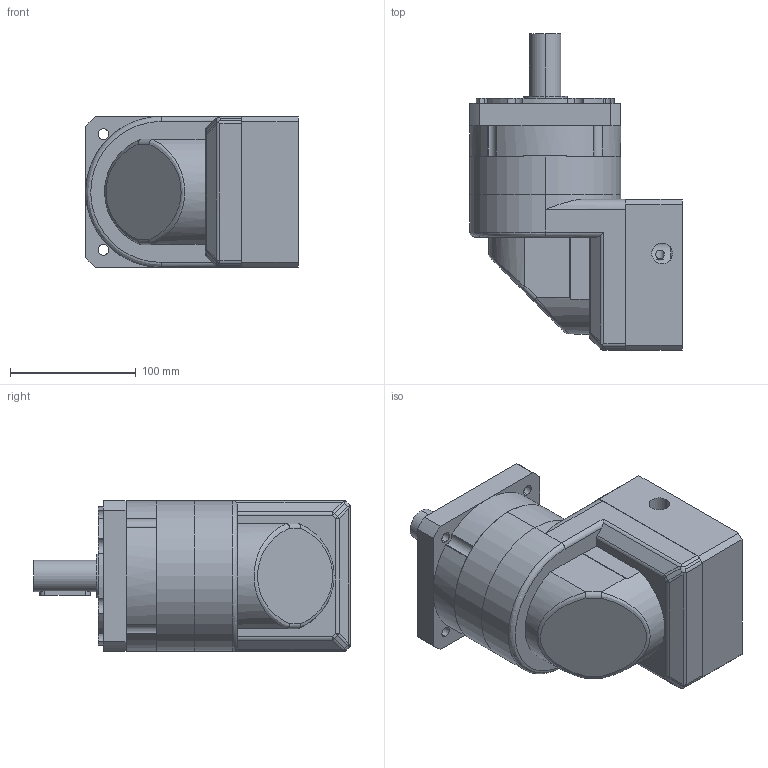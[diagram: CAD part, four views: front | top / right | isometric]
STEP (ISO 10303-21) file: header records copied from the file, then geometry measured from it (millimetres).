
FILE_DESCRIPTION (( 'STEP AP203' ), '1' );
FILE_NAME ('PVFA120-L1-24-110-145.STEP', '2026-09-18T03:56:49', ( 'Windows User' ), ( 'P R C' ), 'SwSTEP 2.0', 'SolidWorks 2016', '' );
FILE_SCHEMA (( 'CONFIG_CONTROL_DESIGN' ));
Length unit declared in the file: millimetre
Products named in the file (9): 螺釘範本 M8x20; 邧埴瑩 8x7x40; 粣創-3207A 35x72x27_2; PVFA120-L1-24-110-145; PVFA120-眊极陔; PVFA120 κｳﾝﾈｦ-ﾓﾅｻｯ_ﾒｻｼｶﾄﾚｳﾝﾈｦ; PVFA120 奻屳唳; PVFA120-蟀諉啣; PVFA120-薊粣ん-24
Assembly tree (8 placements, depth 2):
  PVFA120-L1-24-110-145
    PVFA120-眊极陔
    PVFA120 κｳﾝﾈｦ-ﾓﾅｻｯ_ﾒｻｼｶﾄﾚｳﾝﾈｦ
    PVFA120 奻屳唳
    PVFA120-蟀諉啣
    PVFA120-薊粣ん-24
    螺釘範本 M8x20
    邧埴瑩 8x7x40
    粣創-3207A 35x72x27_2
Bounding box: 169 x 252 x 120 mm (x, y, z)
Volume: 2376480.9 mm3; surface area: 306347.8 mm2
Topology: 8 solids, 16 shells, 1225 faces, 3336 edges, 2187 vertices
Faces by surface type: plane 670, bspline 271, cylinder 256, cone 28
Entity records: 48693 total; most frequent: CARTESIAN_POINT 18330, ORIENTED_EDGE 6628, DIRECTION 5318, EDGE_CURVE 3314, VERTEX_POINT 2187, VECTOR 1946, LINE 1946, AXIS2_PLACEMENT_3D 1686
